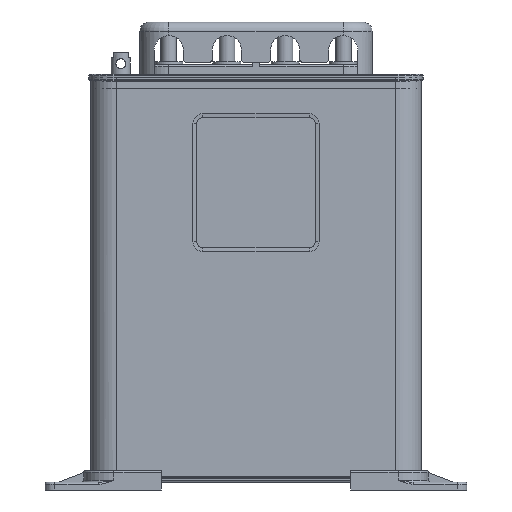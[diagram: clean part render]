
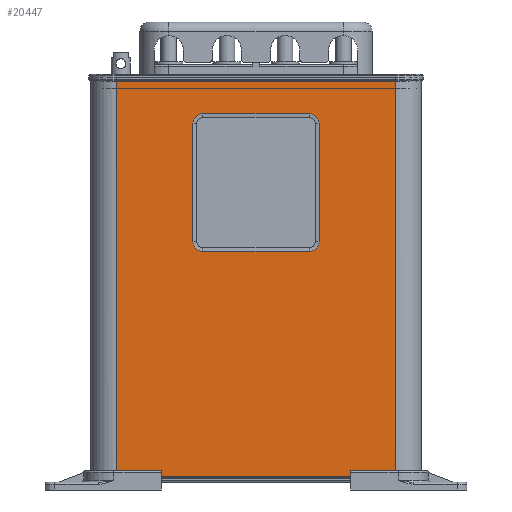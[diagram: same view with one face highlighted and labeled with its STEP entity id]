
A CAD part, front view. The second image highlights one B-rep face of the part: STEP entity #20447.
In plain terms, the highlighted planar face has unit normal (0, -1, 0).
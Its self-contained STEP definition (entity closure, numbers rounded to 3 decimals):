
#1726=DIRECTION('',(-1.,0.,0.));
#1727=VECTOR('',#1726,144.);
#1728=CARTESIAN_POINT('',(72.,-44.28,102.4));
#1729=LINE('',#1728,#1727);
#1730=DIRECTION('',(-1.,0.,0.));
#1731=VECTOR('',#1730,23.22);
#1732=CARTESIAN_POINT('',(72.,-44.28,-99.28));
#1733=LINE('',#1732,#1731);
#1734=DIRECTION('',(0.,0.,1.));
#1735=VECTOR('',#1734,1.5);
#1736=CARTESIAN_POINT('',(48.78,-44.28,-100.78));
#1737=LINE('',#1736,#1735);
#1738=DIRECTION('',(0.707,0.,-0.707));
#1739=VECTOR('',#1738,1.414);
#1740=CARTESIAN_POINT('',(48.78,-44.28,-100.78));
#1741=LINE('',#1740,#1739);
#1742=DIRECTION('',(-1.,0.,0.));
#1743=VECTOR('',#1742,22.22);
#1744=CARTESIAN_POINT('',(72.,-44.28,-101.78));
#1745=LINE('',#1744,#1743);
#1746=DIRECTION('',(1.,0.,0.));
#1747=VECTOR('',#1746,144.);
#1748=CARTESIAN_POINT('',(-72.,-44.28,-102.68));
#1749=LINE('',#1748,#1747);
#1750=DIRECTION('',(0.,0.,1.));
#1751=VECTOR('',#1750,0.9);
#1752=CARTESIAN_POINT('',(-72.,-44.28,-102.68));
#1753=LINE('',#1752,#1751);
#1754=DIRECTION('',(1.,0.,0.));
#1755=VECTOR('',#1754,22.22);
#1756=CARTESIAN_POINT('',(-72.,-44.28,-101.78));
#1757=LINE('',#1756,#1755);
#1758=DIRECTION('',(-0.707,0.,-0.707));
#1759=VECTOR('',#1758,1.414);
#1760=CARTESIAN_POINT('',(-48.78,-44.28,-100.78));
#1761=LINE('',#1760,#1759);
#1762=DIRECTION('',(0.,0.,1.));
#1763=VECTOR('',#1762,1.5);
#1764=CARTESIAN_POINT('',(-48.78,-44.28,-100.78));
#1765=LINE('',#1764,#1763);
#1766=DIRECTION('',(1.,0.,0.));
#1767=VECTOR('',#1766,23.22);
#1768=CARTESIAN_POINT('',(-72.,-44.28,-99.28));
#1769=LINE('',#1768,#1767);
#1770=DIRECTION('',(0.,0.,1.));
#1771=VECTOR('',#1770,201.68);
#1772=CARTESIAN_POINT('',(-72.,-44.28,-99.28));
#1773=LINE('',#1772,#1771);
#1774=DIRECTION('',(-1.,0.,0.));
#1775=VECTOR('',#1774,55.);
#1776=CARTESIAN_POINT('',(27.5,-44.28,84.72));
#1777=LINE('',#1776,#1775);
#1778=CARTESIAN_POINT('',(-27.5,-44.28,79.72));
#1779=DIRECTION('',(0.,-1.,0.));
#1780=DIRECTION('',(0.,0.,1.));
#1781=AXIS2_PLACEMENT_3D('',#1778,#1779,#1780);
#1783=DIRECTION('',(0.,0.,-1.));
#1784=VECTOR('',#1783,61.);
#1785=CARTESIAN_POINT('',(-32.5,-44.28,79.72));
#1786=LINE('',#1785,#1784);
#1787=CARTESIAN_POINT('',(-27.5,-44.28,18.72));
#1788=DIRECTION('',(0.,-1.,0.));
#1789=DIRECTION('',(-1.,0.,0.));
#1790=AXIS2_PLACEMENT_3D('',#1787,#1788,#1789);
#1792=DIRECTION('',(1.,0.,0.));
#1793=VECTOR('',#1792,55.);
#1794=CARTESIAN_POINT('',(-27.5,-44.28,13.72));
#1795=LINE('',#1794,#1793);
#1796=CARTESIAN_POINT('',(27.5,-44.28,18.72));
#1797=DIRECTION('',(0.,-1.,0.));
#1798=DIRECTION('',(0.,0.,-1.));
#1799=AXIS2_PLACEMENT_3D('',#1796,#1797,#1798);
#1801=DIRECTION('',(0.,0.,1.));
#1802=VECTOR('',#1801,61.);
#1803=CARTESIAN_POINT('',(32.5,-44.28,18.72));
#1804=LINE('',#1803,#1802);
#1805=CARTESIAN_POINT('',(27.5,-44.28,79.72));
#1806=DIRECTION('',(0.,-1.,0.));
#1807=DIRECTION('',(1.,0.,0.));
#1808=AXIS2_PLACEMENT_3D('',#1805,#1806,#1807);
#1834=DIRECTION('',(0.,0.,1.));
#1835=VECTOR('',#1834,0.9);
#1836=CARTESIAN_POINT('',(72.,-44.28,-102.68));
#1837=LINE('',#1836,#1835);
#1852=DIRECTION('',(0.,0.,1.));
#1853=VECTOR('',#1852,201.68);
#1854=CARTESIAN_POINT('',(72.,-44.28,-99.28));
#1855=LINE('',#1854,#1853);
#15011=CARTESIAN_POINT('',(27.5,-44.28,84.72));
#15012=CARTESIAN_POINT('',(-27.5,-44.28,84.72));
#15013=VERTEX_POINT('',#15011);
#15014=VERTEX_POINT('',#15012);
#15015=CARTESIAN_POINT('',(-32.5,-44.28,79.72));
#15016=VERTEX_POINT('',#15015);
#15017=CARTESIAN_POINT('',(-32.5,-44.28,18.72));
#15018=VERTEX_POINT('',#15017);
#15019=CARTESIAN_POINT('',(-27.5,-44.28,13.72));
#15020=VERTEX_POINT('',#15019);
#15021=CARTESIAN_POINT('',(27.5,-44.28,13.72));
#15022=VERTEX_POINT('',#15021);
#15023=CARTESIAN_POINT('',(32.5,-44.28,18.72));
#15024=VERTEX_POINT('',#15023);
#15025=CARTESIAN_POINT('',(32.5,-44.28,79.72));
#15026=VERTEX_POINT('',#15025);
#15129=CARTESIAN_POINT('',(-72.,-44.28,-102.68));
#15130=VERTEX_POINT('',#15129);
#15131=CARTESIAN_POINT('',(72.,-44.28,-102.68));
#15132=VERTEX_POINT('',#15131);
#15591=CARTESIAN_POINT('',(-72.,-44.28,-99.28));
#15593=VERTEX_POINT('',#15591);
#15595=CARTESIAN_POINT('',(-72.,-44.28,-101.78));
#15597=VERTEX_POINT('',#15595);
#15598=CARTESIAN_POINT('',(-48.78,-44.28,-99.28));
#15599=VERTEX_POINT('',#15598);
#15600=CARTESIAN_POINT('',(-48.78,-44.28,-100.78));
#15601=VERTEX_POINT('',#15600);
#15602=CARTESIAN_POINT('',(-49.78,-44.28,-101.78));
#15603=VERTEX_POINT('',#15602);
#16011=CARTESIAN_POINT('',(72.,-44.28,-99.28));
#16012=CARTESIAN_POINT('',(48.78,-44.28,-99.28));
#16013=VERTEX_POINT('',#16011);
#16014=VERTEX_POINT('',#16012);
#16015=CARTESIAN_POINT('',(48.78,-44.28,-100.78));
#16016=VERTEX_POINT('',#16015);
#16017=CARTESIAN_POINT('',(72.,-44.28,-101.78));
#16018=CARTESIAN_POINT('',(49.78,-44.28,-101.78));
#16019=VERTEX_POINT('',#16017);
#16020=VERTEX_POINT('',#16018);
#16588=CARTESIAN_POINT('',(-72.,-44.28,102.4));
#16589=VERTEX_POINT('',#16588);
#16592=CARTESIAN_POINT('',(72.,-44.28,102.4));
#16593=VERTEX_POINT('',#16592);
#20396=CARTESIAN_POINT('',(-72.,-44.28,104.72));
#20397=DIRECTION('',(0.,-1.,0.));
#20398=DIRECTION('',(0.,0.,-1.));
#20399=AXIS2_PLACEMENT_3D('',#20396,#20397,#20398);
#20400=PLANE('',#20399);
#20402=ORIENTED_EDGE('',*,*,#20401,.F.);
#20404=ORIENTED_EDGE('',*,*,#20403,.F.);
#20406=ORIENTED_EDGE('',*,*,#20405,.T.);
#20408=ORIENTED_EDGE('',*,*,#20407,.F.);
#20410=ORIENTED_EDGE('',*,*,#20409,.T.);
#20412=ORIENTED_EDGE('',*,*,#20411,.F.);
#20414=ORIENTED_EDGE('',*,*,#20413,.F.);
#20416=ORIENTED_EDGE('',*,*,#20415,.F.);
#20417=ORIENTED_EDGE('',*,*,#20383,.T.);
#20419=ORIENTED_EDGE('',*,*,#20418,.T.);
#20421=ORIENTED_EDGE('',*,*,#20420,.F.);
#20423=ORIENTED_EDGE('',*,*,#20422,.T.);
#20425=ORIENTED_EDGE('',*,*,#20424,.F.);
#20426=ORIENTED_EDGE('',*,*,#20375,.T.);
#20427=EDGE_LOOP('',(#20402,#20404,#20406,#20408,#20410,#20412,#20414,#20416,
#20417,#20419,#20421,#20423,#20425,#20426));
#20428=FACE_OUTER_BOUND('',#20427,.F.);
#20430=ORIENTED_EDGE('',*,*,#20429,.T.);
#20432=ORIENTED_EDGE('',*,*,#20431,.T.);
#20434=ORIENTED_EDGE('',*,*,#20433,.T.);
#20436=ORIENTED_EDGE('',*,*,#20435,.T.);
#20438=ORIENTED_EDGE('',*,*,#20437,.T.);
#20440=ORIENTED_EDGE('',*,*,#20439,.T.);
#20442=ORIENTED_EDGE('',*,*,#20441,.T.);
#20444=ORIENTED_EDGE('',*,*,#20443,.T.);
#20445=EDGE_LOOP('',(#20430,#20432,#20434,#20436,#20438,#20440,#20442,#20444));
#20446=FACE_BOUND('',#20445,.F.);
#20447=ADVANCED_FACE('',(#20428,#20446),#20400,.T.);
#1782=CIRCLE('',#1781,5.);
#1791=CIRCLE('',#1790,5.);
#1800=CIRCLE('',#1799,5.);
#1809=CIRCLE('',#1808,5.);
#20375=EDGE_CURVE('',#15593,#16589,#1773,.T.);
#20383=EDGE_CURVE('',#15130,#15597,#1753,.T.);
#20401=EDGE_CURVE('',#16593,#16589,#1729,.T.);
#20403=EDGE_CURVE('',#16013,#16593,#1855,.T.);
#20405=EDGE_CURVE('',#16013,#16014,#1733,.T.);
#20407=EDGE_CURVE('',#16016,#16014,#1737,.T.);
#20409=EDGE_CURVE('',#16016,#16020,#1741,.T.);
#20411=EDGE_CURVE('',#16019,#16020,#1745,.T.);
#20413=EDGE_CURVE('',#15132,#16019,#1837,.T.);
#20415=EDGE_CURVE('',#15130,#15132,#1749,.T.);
#20418=EDGE_CURVE('',#15597,#15603,#1757,.T.);
#20420=EDGE_CURVE('',#15601,#15603,#1761,.T.);
#20422=EDGE_CURVE('',#15601,#15599,#1765,.T.);
#20424=EDGE_CURVE('',#15593,#15599,#1769,.T.);
#20429=EDGE_CURVE('',#15013,#15014,#1777,.T.);
#20431=EDGE_CURVE('',#15014,#15016,#1782,.T.);
#20433=EDGE_CURVE('',#15016,#15018,#1786,.T.);
#20435=EDGE_CURVE('',#15018,#15020,#1791,.T.);
#20437=EDGE_CURVE('',#15020,#15022,#1795,.T.);
#20439=EDGE_CURVE('',#15022,#15024,#1800,.T.);
#20441=EDGE_CURVE('',#15024,#15026,#1804,.T.);
#20443=EDGE_CURVE('',#15026,#15013,#1809,.T.);
